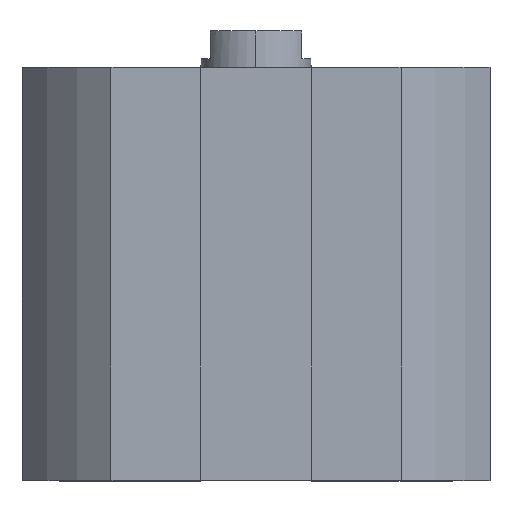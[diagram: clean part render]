
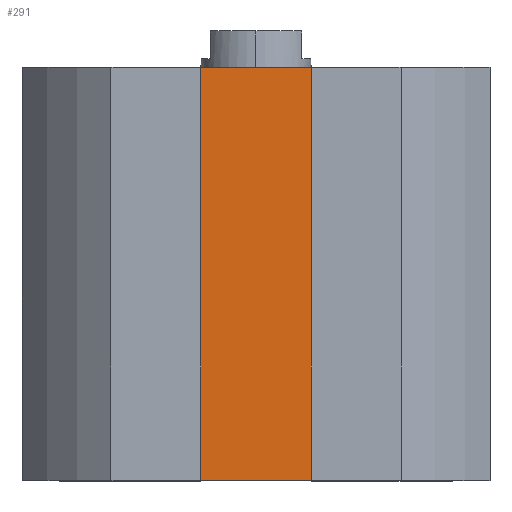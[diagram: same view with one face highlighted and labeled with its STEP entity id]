
A CAD part, top view. The second image highlights one B-rep face of the part: STEP entity #291.
In plain terms, the highlighted planar face has unit normal (0, 0, 1).
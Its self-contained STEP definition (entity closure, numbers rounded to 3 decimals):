
#16 = EDGE_CURVE ( 'NONE', #335, #864, #2390, .T. ) ;
#271 = VERTEX_POINT ( 'NONE', #988 ) ;
#277 = DIRECTION ( 'NONE',  ( 0., 1., 0. ) ) ;
#291 = ADVANCED_FACE ( 'NONE', ( #2936 ), #2823, .T. ) ;
#335 = VERTEX_POINT ( 'NONE', #2778 ) ;
#392 = DIRECTION ( 'NONE',  ( 1., 0., 0. ) ) ;
#458 = LINE ( 'NONE', #2459, #861 ) ;
#472 = CARTESIAN_POINT ( 'NONE',  ( 0., -45., 17. ) ) ;
#547 = DIRECTION ( 'NONE',  ( 0., 1., 0. ) ) ;
#627 = VECTOR ( 'NONE', #277, 1000. ) ;
#861 = VECTOR ( 'NONE', #392, 1000. ) ;
#864 = VERTEX_POINT ( 'NONE', #1780 ) ;
#870 = CARTESIAN_POINT ( 'NONE',  ( 0., -45., 17. ) ) ;
#913 = EDGE_CURVE ( 'NONE', #1185, #271, #458, .T. ) ;
#954 = CARTESIAN_POINT ( 'NONE',  ( -7.7, 0., 17. ) ) ;
#988 = CARTESIAN_POINT ( 'NONE',  ( 7.7, 0., 17. ) ) ;
#1149 = ORIENTED_EDGE ( 'NONE', *, *, #913, .F. ) ;
#1185 = VERTEX_POINT ( 'NONE', #954 ) ;
#1248 = LINE ( 'NONE', #1665, #627 ) ;
#1373 = EDGE_CURVE ( 'NONE', #864, #271, #1793, .T. ) ;
#1440 = VECTOR ( 'NONE', #1553, 1000. ) ;
#1553 = DIRECTION ( 'NONE',  ( 1., 0., 0. ) ) ;
#1665 = CARTESIAN_POINT ( 'NONE',  ( -7.7, -45., 17. ) ) ;
#1780 = CARTESIAN_POINT ( 'NONE',  ( 7.7, -45., 17. ) ) ;
#1793 = LINE ( 'NONE', #1937, #1831 ) ;
#1831 = VECTOR ( 'NONE', #547, 1000. ) ;
#1935 = ORIENTED_EDGE ( 'NONE', *, *, #2220, .F. ) ;
#1937 = CARTESIAN_POINT ( 'NONE',  ( 7.7, -45., 17. ) ) ;
#2096 = DIRECTION ( 'NONE',  ( 1., 0., 0. ) ) ;
#2220 = EDGE_CURVE ( 'NONE', #335, #1185, #1248, .T. ) ;
#2390 = LINE ( 'NONE', #870, #1440 ) ;
#2459 = CARTESIAN_POINT ( 'NONE',  ( 0., 0., 17. ) ) ;
#2526 = ORIENTED_EDGE ( 'NONE', *, *, #1373, .T. ) ;
#2778 = CARTESIAN_POINT ( 'NONE',  ( -7.7, -45., 17. ) ) ;
#2812 = DIRECTION ( 'NONE',  ( 0., 0., 1. ) ) ;
#2823 = PLANE ( 'NONE',  #2918 ) ;
#2892 = ORIENTED_EDGE ( 'NONE', *, *, #16, .T. ) ;
#2918 = AXIS2_PLACEMENT_3D ( 'NONE', #472, #2812, #2096 ) ;
#2936 = FACE_OUTER_BOUND ( 'NONE', #2982, .T. ) ;
#2982 = EDGE_LOOP ( 'NONE', ( #1149, #1935, #2892, #2526 ) ) ;
